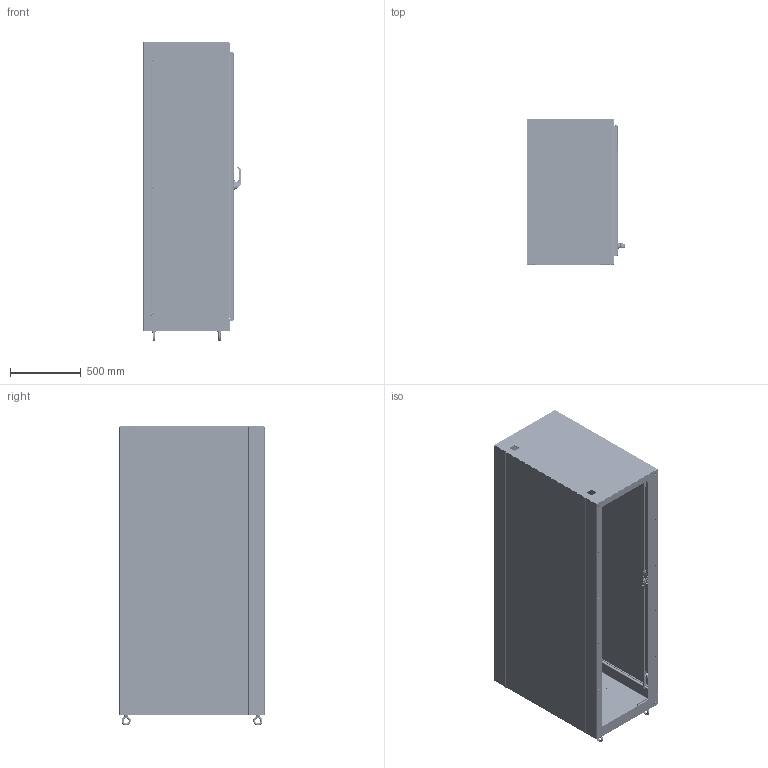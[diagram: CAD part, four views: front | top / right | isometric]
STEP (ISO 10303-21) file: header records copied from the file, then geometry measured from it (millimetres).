
FILE_DESCRIPTION((''),'2;1');
FILE_NAME('MODEL-459_ASM','2023-09-19T08:24:33',('johnh'),('SAGINAW CONTROL & ENGINEERING'),'CREO PARAMETRIC BY PTC INC, 2021284','CREO PARAMETRIC BY PTC INC, 2021284','');
FILE_SCHEMA(('AUTOMOTIVE_DESIGN { 1 0 10303 214 1 1 1 1 }'));
Length unit declared in the file: inch
Products named in the file (76): MODEL-459-L-SD; MODEL-459-TP; MODEL-459-R-SD; MODEL-459-BTM; MODEL-459-DR; 100837; 100957_HANDLE; 100957_HANDLE_INSERT; 100957_SHAFT_CAM; 100957_ADAPTER_CAM; 100957_NUT_CAM; 100957_BASE; 100957_O-RING; 100957_WASHER_SEALING; 100957_NUT_MOUNTING_LARGE; 100957_NUT_MOUNTING_SMALL; 100957_SCREW_SMALL; 100957_PADLOCK_CATCH; 100957_STOP_CAM; 100957_ASM; 102237; 100030; 102237_ASM; MODEL-459-ROD-UPR; 128146; 128145; 128144; 102482; MODEL-459-ROD-UPR_ASM; 128143; 100882; 112504; MODEL-459-ROD-LWR; MODEL-459-ROD-LWR_ASM; MODEL-459-PR-GSKT; 128257; 128257_ASM; 126393; 102483; 101369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
Assembly tree (144 placements, depth 4):
  MODEL-459_ASM
    MODEL-459-L-SD
    MODEL-459-TP
    MODEL-459-R-SD
    MODEL-459-BTM
    MODEL-459-DOOR-ASSY_ASM
      MODEL-459-DR
      100837  x3
      100957_ASM
        100957_HANDLE
        100957_HANDLE_INSERT
        100957_SHAFT_CAM
        100957_ADAPTER_CAM
        100957_NUT_CAM
        100957_BASE
        100957_O-RING
        100957_WASHER_SEALING
        100957_NUT_MOUNTING_LARGE
        100957_NUT_MOUNTING_SMALL
        100957_SCREW_SMALL
        100957_PADLOCK_CATCH
        100957_STOP_CAM
      102237_ASM
        102237
        100030  x2
      MODEL-459-ROD-UPR_ASM
        MODEL-459-ROD-UPR
        128146
        128145
        128144
        102482  x2
      128143  x2
      100882  x10
      112504  x2
      MODEL-459-ROD-LWR_ASM
        MODEL-459-ROD-LWR
        128146
        128145
        128144
        102482  x2
      MODEL-459-PR-GSKT
      128257_ASM  x4
        128257
      126393  x4
      102483  x4
      101369_ASM  x4
        101369
        101369-STUD
      101221  x4
    MODEL-459-BCK
    100837  x6
    101653  x8
    102238  x2
    121454
    MODEL-459-BB  x3
    130513  x4
    103300_ASM  x4
      100834
      109064
      114505
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Bounding box: 686.97 x 1022.35 x 2106.8 mm (x, y, z)
Volume: 26956563.5 mm3; surface area: 19423681.6 mm2
Topology: 150 solids, 150 shells, 14260 faces, 36262 edges, 22466 vertices
Faces by surface type: plane 4784, cylinder 4217, bspline 2778, torus 1153, cone 635, sphere 428, extrusion 265
Entity records: 445869 total; most frequent: CARTESIAN_POINT 201738, ORIENTED_EDGE 37384, DIRECTION 35577, PRESENTATION_STYLE_ASSIGNMENT 18868, STYLED_ITEM 18728, EDGE_CURVE 18692, CURVE_STYLE 18644, AXIS2_PLACEMENT_3D 13400
